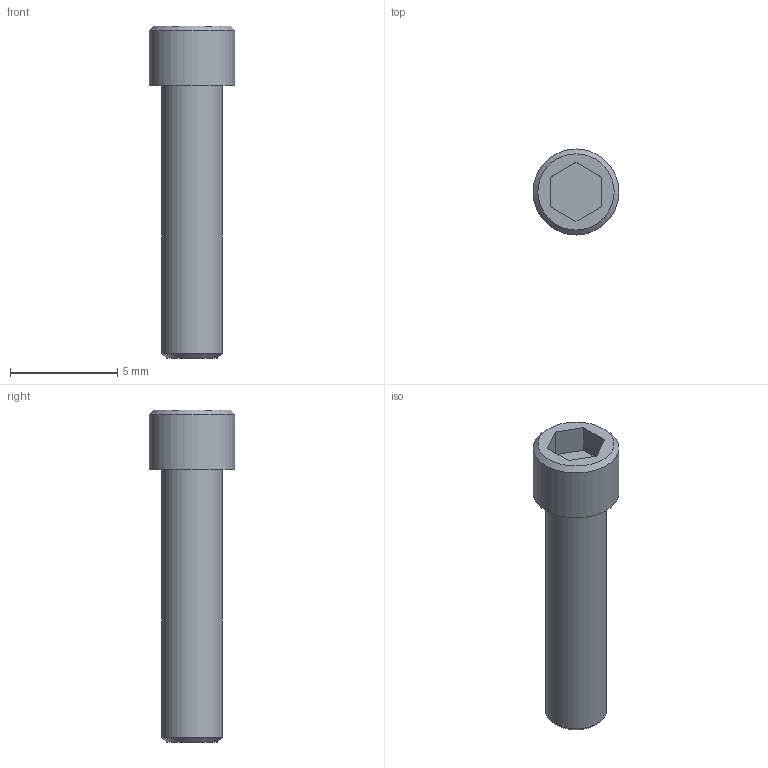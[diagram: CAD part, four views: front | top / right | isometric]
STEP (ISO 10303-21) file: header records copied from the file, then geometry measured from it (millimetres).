
FILE_DESCRIPTION((''),'2;1');
FILE_NAME('C:\Users\Stan\Desktop\import\SHCS 4-40 UNCx0.5.ipt.step','2011-08-18T17:44:30',(''),(''),'Autodesk Inventor 2012','Autodesk Inventor 2012','');
FILE_SCHEMA(('AUTOMOTIVE_DESIGN { 1 0 10303 214 1 1 1 1 }'));
Length unit declared in the file: inch
Products named in the file (1): SHCS 4-40 UNCx0.5
Bounding box: 4.01 x 4.01 x 15.49 mm (x, y, z)
Volume: 109.1 mm3; surface area: 181.7 mm2
Topology: 1 solids, 1 shells, 14 faces, 28 edges, 18 vertices
Faces by surface type: plane 10, cone 2, cylinder 2
Full cylindrical faces by diameter (mm): 2.845 x1, 4.013 x1
Entity records: 391 total; most frequent: DIRECTION 60, CARTESIAN_POINT 57, ORIENTED_EDGE 48, EDGE_CURVE 24, AXIS2_PLACEMENT_3D 21, EDGE_LOOP 20, VERTEX_POINT 18, VECTOR 18
